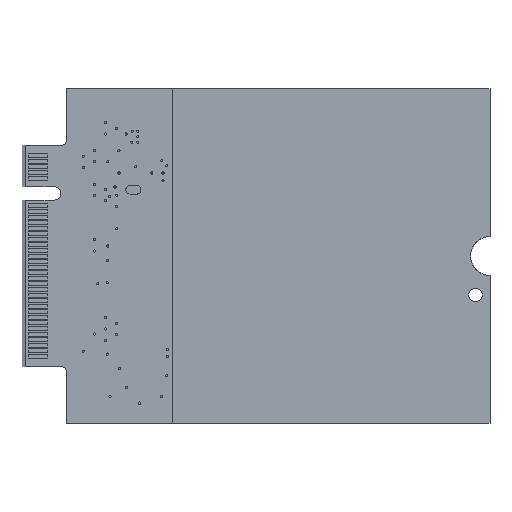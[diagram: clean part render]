
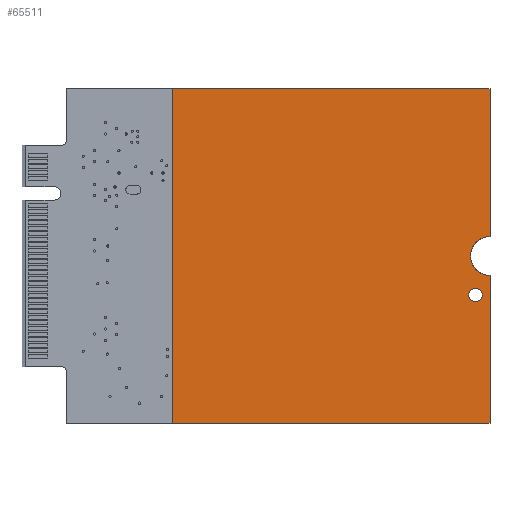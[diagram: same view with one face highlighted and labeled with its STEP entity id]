
A CAD part, front view. The second image highlights one B-rep face of the part: STEP entity #65511.
In plain terms, the highlighted planar face has unit normal (0, -1, 0).
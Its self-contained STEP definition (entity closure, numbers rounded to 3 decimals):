
#3590=DIRECTION('',(-1.,0.,0.));
#3591=VECTOR('',#3590,28.5);
#3592=CARTESIAN_POINT('',(21.,0.02,15.));
#3593=LINE('',#3592,#3591);
#3594=CARTESIAN_POINT('',(21.,0.02,0.));
#3595=DIRECTION('',(0.,1.,0.));
#3596=DIRECTION('',(-0.478,0.,0.879));
#3597=AXIS2_PLACEMENT_3D('',#3594,#3595,#3596);
#3599=DIRECTION('',(0.93,0.,0.368));
#3600=VECTOR('',#3599,0.047);
#3601=CARTESIAN_POINT('',(20.12,0.02,1.52));
#3602=LINE('',#3601,#3600);
#3603=DIRECTION('',(0.789,0.,0.614));
#3604=VECTOR('',#3603,0.053);
#3605=CARTESIAN_POINT('',(20.079,0.02,1.488));
#3606=LINE('',#3605,#3604);
#3607=CARTESIAN_POINT('',(21.,0.02,0.));
#3608=DIRECTION('',(0.,1.,0.));
#3609=DIRECTION('',(-0.694,0.,0.72));
#3610=AXIS2_PLACEMENT_3D('',#3607,#3608,#3609);
#3612=DIRECTION('',(0.789,0.,0.614));
#3613=VECTOR('',#3612,0.031);
#3614=CARTESIAN_POINT('',(19.76,0.02,1.24));
#3615=LINE('',#3614,#3613);
#3616=DIRECTION('',(0.614,0.,0.789));
#3617=VECTOR('',#3616,0.031);
#3618=CARTESIAN_POINT('',(19.741,0.02,1.215));
#3619=LINE('',#3618,#3617);
#3620=CARTESIAN_POINT('',(21.,0.02,0.));
#3621=DIRECTION('',(0.,1.,0.));
#3622=DIRECTION('',(-0.85,0.,0.527));
#3623=AXIS2_PLACEMENT_3D('',#3620,#3621,#3622);
#3625=DIRECTION('',(0.614,0.,0.789));
#3626=VECTOR('',#3625,0.053);
#3627=CARTESIAN_POINT('',(19.48,0.02,0.88));
#3628=LINE('',#3627,#3626);
#3629=DIRECTION('',(0.368,0.,0.93));
#3630=VECTOR('',#3629,0.047);
#3631=CARTESIAN_POINT('',(19.463,0.02,0.836));
#3632=LINE('',#3631,#3630);
#3633=CARTESIAN_POINT('',(21.,0.02,0.));
#3634=DIRECTION('',(0.,1.,0.));
#3635=DIRECTION('',(-0.879,0.,-0.478));
#3636=AXIS2_PLACEMENT_3D('',#3633,#3634,#3635);
#3638=DIRECTION('',(-0.368,0.,0.93));
#3639=VECTOR('',#3638,0.047);
#3640=CARTESIAN_POINT('',(19.48,0.02,-0.88));
#3641=LINE('',#3640,#3639);
#3642=DIRECTION('',(-0.614,0.,0.789));
#3643=VECTOR('',#3642,0.053);
#3644=CARTESIAN_POINT('',(19.512,0.02,-0.921));
#3645=LINE('',#3644,#3643);
#3646=CARTESIAN_POINT('',(21.,0.02,0.));
#3647=DIRECTION('',(0.,1.,0.));
#3648=DIRECTION('',(-0.72,0.,-0.694));
#3649=AXIS2_PLACEMENT_3D('',#3646,#3647,#3648);
#3651=DIRECTION('',(-0.614,0.,0.789));
#3652=VECTOR('',#3651,0.031);
#3653=CARTESIAN_POINT('',(19.76,0.02,-1.24));
#3654=LINE('',#3653,#3652);
#3655=DIRECTION('',(-0.789,0.,0.614));
#3656=VECTOR('',#3655,0.031);
#3657=CARTESIAN_POINT('',(19.785,0.02,-1.259));
#3658=LINE('',#3657,#3656);
#3659=CARTESIAN_POINT('',(21.,0.02,0.));
#3660=DIRECTION('',(0.,1.,0.));
#3661=DIRECTION('',(-0.527,0.,-0.85));
#3662=AXIS2_PLACEMENT_3D('',#3659,#3660,#3661);
#3664=DIRECTION('',(-0.789,0.,0.614));
#3665=VECTOR('',#3664,0.053);
#3666=CARTESIAN_POINT('',(20.12,0.02,-1.52));
#3667=LINE('',#3666,#3665);
#3668=DIRECTION('',(-0.93,0.,0.368));
#3669=VECTOR('',#3668,0.047);
#3670=CARTESIAN_POINT('',(20.164,0.02,-1.537));
#3671=LINE('',#3670,#3669);
#3672=CARTESIAN_POINT('',(21.,0.02,0.));
#3673=DIRECTION('',(0.,1.,0.));
#3674=DIRECTION('',(0.,0.,-1.));
#3675=AXIS2_PLACEMENT_3D('',#3672,#3673,#3674);
#3677=DIRECTION('',(0.,0.,-1.));
#3678=VECTOR('',#3677,30.);
#3679=CARTESIAN_POINT('',(-7.5,0.02,15.));
#3680=LINE('',#3679,#3678);
#3681=CARTESIAN_POINT('',(19.7,0.02,-3.5));
#3682=DIRECTION('',(0.,1.,0.));
#3683=DIRECTION('',(1.,0.,0.));
#3684=AXIS2_PLACEMENT_3D('',#3681,#3682,#3683);
#3686=CARTESIAN_POINT('',(19.7,0.02,-3.5));
#3687=DIRECTION('',(0.,1.,0.));
#3688=DIRECTION('',(-1.,0.,0.));
#3689=AXIS2_PLACEMENT_3D('',#3686,#3687,#3688);
#3691=DIRECTION('',(0.,0.,-1.));
#3692=VECTOR('',#3691,13.25);
#3693=CARTESIAN_POINT('',(21.,0.02,15.));
#3694=LINE('',#3693,#3692);
#12893=DIRECTION('',(-1.,0.,0.));
#12894=VECTOR('',#12893,28.5);
#12895=CARTESIAN_POINT('',(21.,0.02,-15.));
#12896=LINE('',#12895,#12894);
#12925=DIRECTION('',(0.,0.,-1.));
#12926=VECTOR('',#12925,13.25);
#12927=CARTESIAN_POINT('',(21.,0.02,-1.75));
#12928=LINE('',#12927,#12926);
#55644=CARTESIAN_POINT('',(-7.5,0.02,-15.));
#55645=VERTEX_POINT('',#55644);
#55646=CARTESIAN_POINT('',(-7.5,0.02,15.));
#55647=VERTEX_POINT('',#55646);
#55652=CARTESIAN_POINT('',(21.,0.02,15.));
#55653=VERTEX_POINT('',#55652);
#55655=CARTESIAN_POINT('',(21.,0.02,1.75));
#55657=VERTEX_POINT('',#55655);
#55966=CARTESIAN_POINT('',(20.3,0.02,-3.5));
#55967=VERTEX_POINT('',#55966);
#55968=CARTESIAN_POINT('',(19.1,0.02,-3.5));
#55969=VERTEX_POINT('',#55968);
#55986=CARTESIAN_POINT('',(21.,0.02,-15.));
#55987=VERTEX_POINT('',#55986);
#55988=CARTESIAN_POINT('',(21.,0.02,-1.75));
#55990=VERTEX_POINT('',#55988);
#55993=CARTESIAN_POINT('',(20.164,0.02,-1.537));
#55995=VERTEX_POINT('',#55993);
#55997=CARTESIAN_POINT('',(19.785,0.02,-1.259));
#55999=VERTEX_POINT('',#55997);
#56000=CARTESIAN_POINT('',(20.079,0.02,-1.488));
#56002=VERTEX_POINT('',#56000);
#56005=CARTESIAN_POINT('',(19.512,0.02,-0.921));
#56007=VERTEX_POINT('',#56005);
#56008=CARTESIAN_POINT('',(19.741,0.02,-1.215));
#56010=VERTEX_POINT('',#56008);
#56013=CARTESIAN_POINT('',(19.463,0.02,0.836));
#56015=VERTEX_POINT('',#56013);
#56016=CARTESIAN_POINT('',(19.463,0.02,-0.836));
#56018=VERTEX_POINT('',#56016);
#56021=CARTESIAN_POINT('',(19.741,0.02,1.215));
#56023=VERTEX_POINT('',#56021);
#56024=CARTESIAN_POINT('',(19.512,0.02,0.921));
#56026=VERTEX_POINT('',#56024);
#56029=CARTESIAN_POINT('',(20.079,0.02,1.488));
#56031=VERTEX_POINT('',#56029);
#56032=CARTESIAN_POINT('',(19.785,0.02,1.259));
#56034=VERTEX_POINT('',#56032);
#56036=CARTESIAN_POINT('',(20.164,0.02,1.537));
#56038=VERTEX_POINT('',#56036);
#56040=CARTESIAN_POINT('',(20.12,0.02,-1.52));
#56042=VERTEX_POINT('',#56040);
#56044=CARTESIAN_POINT('',(19.76,0.02,-1.24));
#56046=VERTEX_POINT('',#56044);
#56048=CARTESIAN_POINT('',(19.48,0.02,-0.88));
#56050=VERTEX_POINT('',#56048);
#56052=CARTESIAN_POINT('',(19.48,0.02,0.88));
#56054=VERTEX_POINT('',#56052);
#56056=CARTESIAN_POINT('',(19.76,0.02,1.24));
#56058=VERTEX_POINT('',#56056);
#56060=CARTESIAN_POINT('',(20.12,0.02,1.52));
#56062=VERTEX_POINT('',#56060);
#65452=CARTESIAN_POINT('',(6.75,0.02,0.));
#65453=DIRECTION('',(0.,1.,0.));
#65454=DIRECTION('',(0.,0.,-1.));
#65455=AXIS2_PLACEMENT_3D('',#65452,#65453,#65454);
#65456=PLANE('',#65455);
#65457=ORIENTED_EDGE('',*,*,#65432,.F.);
#65459=ORIENTED_EDGE('',*,*,#65458,.T.);
#65461=ORIENTED_EDGE('',*,*,#65460,.F.);
#65463=ORIENTED_EDGE('',*,*,#65462,.F.);
#65465=ORIENTED_EDGE('',*,*,#65464,.F.);
#65467=ORIENTED_EDGE('',*,*,#65466,.F.);
#65469=ORIENTED_EDGE('',*,*,#65468,.F.);
#65471=ORIENTED_EDGE('',*,*,#65470,.F.);
#65473=ORIENTED_EDGE('',*,*,#65472,.F.);
#65475=ORIENTED_EDGE('',*,*,#65474,.F.);
#65477=ORIENTED_EDGE('',*,*,#65476,.F.);
#65479=ORIENTED_EDGE('',*,*,#65478,.F.);
#65481=ORIENTED_EDGE('',*,*,#65480,.F.);
#65483=ORIENTED_EDGE('',*,*,#65482,.F.);
#65485=ORIENTED_EDGE('',*,*,#65484,.F.);
#65487=ORIENTED_EDGE('',*,*,#65486,.F.);
#65489=ORIENTED_EDGE('',*,*,#65488,.F.);
#65491=ORIENTED_EDGE('',*,*,#65490,.F.);
#65493=ORIENTED_EDGE('',*,*,#65492,.F.);
#65495=ORIENTED_EDGE('',*,*,#65494,.F.);
#65497=ORIENTED_EDGE('',*,*,#65496,.F.);
#65499=ORIENTED_EDGE('',*,*,#65498,.T.);
#65501=ORIENTED_EDGE('',*,*,#65500,.T.);
#65502=ORIENTED_EDGE('',*,*,#65413,.F.);
#65503=EDGE_LOOP('',(#65457,#65459,#65461,#65463,#65465,#65467,#65469,#65471,
#65473,#65475,#65477,#65479,#65481,#65483,#65485,#65487,#65489,#65491,#65493,
#65495,#65497,#65499,#65501,#65502));
#65504=FACE_OUTER_BOUND('',#65503,.F.);
#65506=ORIENTED_EDGE('',*,*,#65505,.F.);
#65508=ORIENTED_EDGE('',*,*,#65507,.F.);
#65509=EDGE_LOOP('',(#65506,#65508));
#65510=FACE_BOUND('',#65509,.F.);
#3598=CIRCLE('',#3597,1.75);
#3611=CIRCLE('',#3610,1.75);
#3624=CIRCLE('',#3623,1.75);
#3637=CIRCLE('',#3636,1.75);
#3650=CIRCLE('',#3649,1.75);
#3663=CIRCLE('',#3662,1.75);
#3676=CIRCLE('',#3675,1.75);
#3685=CIRCLE('',#3684,0.6);
#3690=CIRCLE('',#3689,0.6);
#65413=EDGE_CURVE('',#55647,#55645,#3680,.T.);
#65432=EDGE_CURVE('',#55653,#55647,#3593,.T.);
#65458=EDGE_CURVE('',#55653,#55657,#3694,.T.);
#65460=EDGE_CURVE('',#56038,#55657,#3598,.T.);
#65462=EDGE_CURVE('',#56062,#56038,#3602,.T.);
#65464=EDGE_CURVE('',#56031,#56062,#3606,.T.);
#65466=EDGE_CURVE('',#56034,#56031,#3611,.T.);
#65468=EDGE_CURVE('',#56058,#56034,#3615,.T.);
#65470=EDGE_CURVE('',#56023,#56058,#3619,.T.);
#65472=EDGE_CURVE('',#56026,#56023,#3624,.T.);
#65474=EDGE_CURVE('',#56054,#56026,#3628,.T.);
#65476=EDGE_CURVE('',#56015,#56054,#3632,.T.);
#65478=EDGE_CURVE('',#56018,#56015,#3637,.T.);
#65480=EDGE_CURVE('',#56050,#56018,#3641,.T.);
#65482=EDGE_CURVE('',#56007,#56050,#3645,.T.);
#65484=EDGE_CURVE('',#56010,#56007,#3650,.T.);
#65486=EDGE_CURVE('',#56046,#56010,#3654,.T.);
#65488=EDGE_CURVE('',#55999,#56046,#3658,.T.);
#65490=EDGE_CURVE('',#56002,#55999,#3663,.T.);
#65492=EDGE_CURVE('',#56042,#56002,#3667,.T.);
#65494=EDGE_CURVE('',#55995,#56042,#3671,.T.);
#65496=EDGE_CURVE('',#55990,#55995,#3676,.T.);
#65498=EDGE_CURVE('',#55990,#55987,#12928,.T.);
#65500=EDGE_CURVE('',#55987,#55645,#12896,.T.);
#65505=EDGE_CURVE('',#55967,#55969,#3685,.T.);
#65507=EDGE_CURVE('',#55969,#55967,#3690,.T.);
#65511=ADVANCED_FACE('',(#65504,#65510),#65456,.F.);
